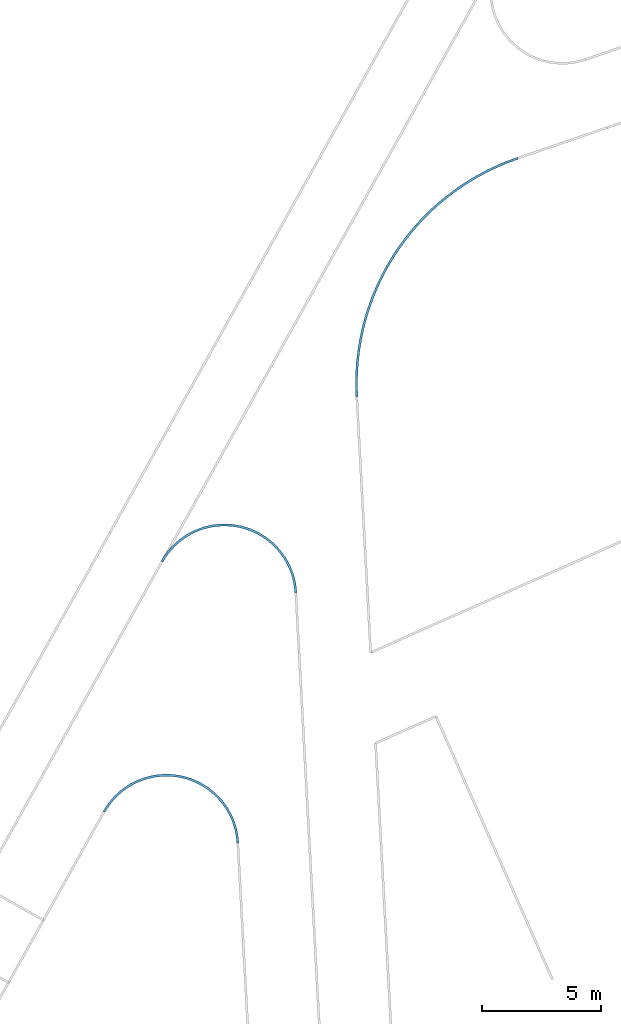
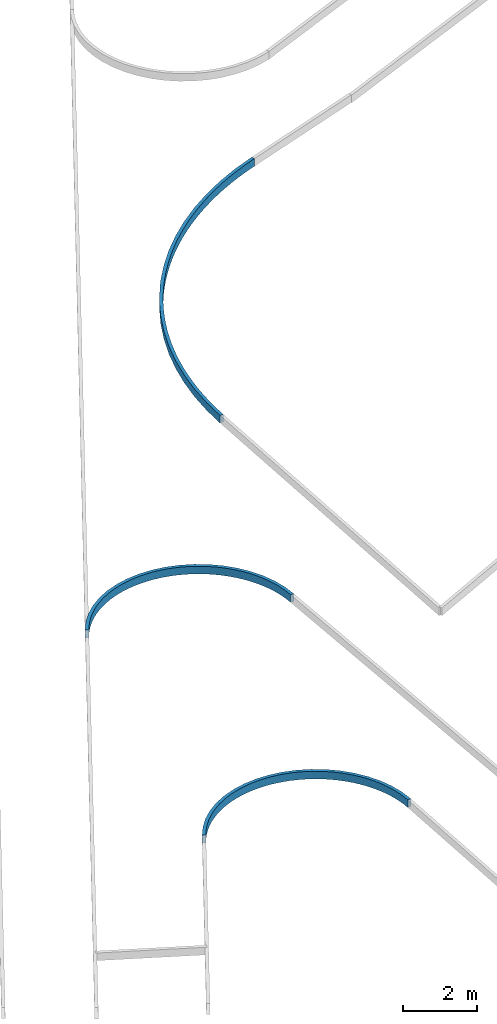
# One storey, part 91 of 112: 3 beams.
"""IFC2X3 building model written with IfcOpenShell, lengths in millimetres."""

from ifc_helpers import new_model, entity, si_unit, converted_unit, derived_unit, direction, frame, origin, place, context, subcontext, project, spatial, faceted_brep, material, type_object, element, save


model = new_model("IFC2X3")

# Units and contexts
model_context = context("Model", 3, precision=0.01, world=origin(), true_north=direction((6.123031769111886e-17, 1.0)))
body_context = subcontext(model_context, "Body", "Model", "MODEL_VIEW")
ifc_project = project(units=[si_unit("LENGTHUNIT", "METRE", prefix="MILLI"), si_unit("AREAUNIT", "SQUARE_METRE"), si_unit("VOLUMEUNIT", "CUBIC_METRE"), converted_unit("PLANEANGLEUNIT", "DEGREE", entity("IfcRatioMeasure", 0.017453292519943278), si_unit("PLANEANGLEUNIT", "RADIAN"), dimensions=[0, 0, 0, 0, 0, 0, 0]), si_unit("MASSUNIT", "GRAM", prefix="KILO"), derived_unit("MASSDENSITYUNIT", [(si_unit("MASSUNIT", "GRAM", prefix="KILO"), 1), (si_unit("LENGTHUNIT", "METRE"), -3)]), derived_unit("MOMENTOFINERTIAUNIT", [(si_unit("LENGTHUNIT", "METRE"), 4)]), si_unit("TIMEUNIT", "SECOND"), si_unit("FREQUENCYUNIT", "HERTZ"), si_unit("THERMODYNAMICTEMPERATUREUNIT", "DEGREE_CELSIUS"), derived_unit("THERMALTRANSMITTANCEUNIT", [(si_unit("MASSUNIT", "GRAM", prefix="KILO"), 1), (si_unit("THERMODYNAMICTEMPERATUREUNIT", "KELVIN"), -1), (si_unit("TIMEUNIT", "SECOND"), -3)]), derived_unit("THERMALCONDUCTANCEUNIT", [(si_unit("MASSUNIT", "GRAM", prefix="KILO"), 1), (si_unit("LENGTHUNIT", "METRE"), 1), (si_unit("THERMODYNAMICTEMPERATUREUNIT", "KELVIN"), -1), (si_unit("TIMEUNIT", "SECOND"), -3)]), derived_unit("VOLUMETRICFLOWRATEUNIT", [(si_unit("LENGTHUNIT", "METRE"), 3), (si_unit("TIMEUNIT", "SECOND"), -1)]), derived_unit("MASSFLOWRATEUNIT", [(si_unit("MASSUNIT", "GRAM", prefix="KILO"), 1), (si_unit("TIMEUNIT", "SECOND"), -1)]), derived_unit("ROTATIONALFREQUENCYUNIT", [(si_unit("TIMEUNIT", "SECOND"), -1)]), si_unit("ELECTRICCURRENTUNIT", "AMPERE"), si_unit("ELECTRICVOLTAGEUNIT", "VOLT"), si_unit("POWERUNIT", "WATT"), converted_unit("FORCEUNIT", "KIP", entity("IfcRatioMeasure", 2.088543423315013e-05), si_unit("FORCEUNIT", "NEWTON"), dimensions=[1, 1, -2, 0, 0, 0, 0]), si_unit("ILLUMINANCEUNIT", "LUX"), si_unit("LUMINOUSFLUXUNIT", "LUMEN"), si_unit("LUMINOUSINTENSITYUNIT", "CANDELA"), derived_unit("USERDEFINED", [(si_unit("MASSUNIT", "GRAM", prefix="KILO"), -1), (si_unit("LENGTHUNIT", "METRE"), -2), (si_unit("TIMEUNIT", "SECOND"), 3), (si_unit("LUMINOUSFLUXUNIT", "LUMEN"), 1)]), derived_unit("USERDEFINED", [(si_unit("MASSUNIT", "GRAM", prefix="KILO"), 1), (si_unit("LENGTHUNIT", "METRE"), 3), (si_unit("TIMEUNIT", "SECOND"), -3), (si_unit("ELECTRICCURRENTUNIT", "AMPERE"), -2)]), derived_unit("USERDEFINED", [(si_unit("LENGTHUNIT", "METRE"), 2), (si_unit("TIMEUNIT", "SECOND"), -2)]), derived_unit("SOUNDPOWERUNIT", [(si_unit("MASSUNIT", "GRAM", prefix="KILO"), 1), (si_unit("LENGTHUNIT", "METRE"), 2), (si_unit("TIMEUNIT", "SECOND"), -3)]), derived_unit("SOUNDPRESSUREUNIT", [(si_unit("MASSUNIT", "GRAM", prefix="KILO"), 1), (si_unit("LENGTHUNIT", "METRE"), -1), (si_unit("TIMEUNIT", "SECOND"), -2)]), derived_unit("LINEARVELOCITYUNIT", [(si_unit("LENGTHUNIT", "METRE"), 1), (si_unit("TIMEUNIT", "SECOND"), -1)]), si_unit("PRESSUREUNIT", "PASCAL"), derived_unit("USERDEFINED", [(si_unit("LENGTHUNIT", "METRE"), -2), (si_unit("MASSUNIT", "GRAM", prefix="KILO"), 1), (si_unit("TIMEUNIT", "SECOND"), -2)]), derived_unit("LINEARFORCEUNIT", [(si_unit("MASSUNIT", "GRAM", prefix="KILO"), 1), (si_unit("LENGTHUNIT", "METRE"), 1), (si_unit("TIMEUNIT", "SECOND"), -2), (si_unit("LENGTHUNIT", "METRE"), -1)]), derived_unit("PLANARFORCEUNIT", [(si_unit("MASSUNIT", "GRAM", prefix="KILO"), 1), (si_unit("LENGTHUNIT", "METRE"), 1), (si_unit("TIMEUNIT", "SECOND"), -2), (si_unit("LENGTHUNIT", "METRE"), -2)]), derived_unit("SPECIFICHEATCAPACITYUNIT", [(si_unit("LENGTHUNIT", "METRE"), 2), (si_unit("TIMEUNIT", "SECOND"), -2), (si_unit("THERMODYNAMICTEMPERATUREUNIT", "KELVIN"), -1)]), derived_unit("VAPORPERMEABILITYUNIT", [(si_unit("TIMEUNIT", "SECOND"), 1), (si_unit("LENGTHUNIT", "METRE"), -1)]), derived_unit("DYNAMICVISCOSITYUNIT", [(si_unit("MASSUNIT", "GRAM", prefix="KILO"), 1), (si_unit("LENGTHUNIT", "METRE"), -1), (si_unit("TIMEUNIT", "SECOND"), -1)]), derived_unit("THERMALEXPANSIONCOEFFICIENTUNIT", [(si_unit("THERMODYNAMICTEMPERATUREUNIT", "KELVIN"), -1)])], contexts=[model_context])

# Site, building, storey
site_placement = place(None, frame((0.0, 0.0, 0.0), z_axis=(0.0, 0.0, 1.0), x_axis=(0.8191520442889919, 0.5735764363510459, 0.0)))
site = spatial("IfcSite", under=ifc_project, at=site_placement, Name="Default", CompositionType="ELEMENT")
building_placement = place(site_placement, origin())
building = spatial("IfcBuilding", under=site, at=building_placement, CompositionType="ELEMENT")
storey_placement = place(building_placement, frame((0.0, 0.0, -3600.0)))
storey = spatial("IfcBuildingStorey", under=building, at=storey_placement, Name="0.UG -3.60", CompositionType="ELEMENT", Elevation=-3600.0000000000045)

# Beams
ifc_material = material(Name="Paveta_bordur")
beam_type_1 = type_object("IfcBeamType", Name="Beam-146", PredefinedType="NOTDEFINED")
beam_1_placement = place(storey_placement, frame((-16801.070532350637, 94848.97141011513, 1360.0)))
element("IfcBeam", 1, at=beam_1_placement, inside=storey, type_object=beam_type_1, material=ifc_material, Name="Beam-146 208203:Beam-146 208203", ObjectType="Beam-146 208203:Beam-146 208203", context=body_context, shape_type="Brep", body=[
    faceted_brep([(3833.5869192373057, 54.42806388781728, 250.0), (3833.5869192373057, 54.42806388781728, 0.0), (3918.4909599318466, 1.5952722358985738, 0.0), (3918.4909599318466, 1.5952722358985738, 250.0), (1.5952722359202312, 4359.031674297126, 0.0), (45.11404097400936, 4268.997698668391, 0.0), (45.11404097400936, 4268.997698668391, 250.0), (1.5952722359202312, 4359.031674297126, 250.0), (218.81797420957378, 4346.158156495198, 0.0), (365.5442628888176, 4506.852978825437, 0.0), (745.473706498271, 4606.670931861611, 0.0), (1135.0813279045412, 4656.829751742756, 0.0), (1527.9043101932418, 4656.4974032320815, 0.0), (1917.4264999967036, 4605.6793993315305, 0.0), (2297.1864975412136, 4505.218709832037, 0.0), (2660.8848384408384, 4356.781778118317, 0.0), (3002.4884893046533, 4162.830878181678, 0.0), (3316.330923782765, 3926.5832703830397, 0.0), (3597.2061189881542, 3651.9578334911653, 0.0), (3840.45491308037, 3343.5100582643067, 0.0), (4042.042291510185, 3006.3564809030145, 0.0), (4198.624319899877, 2646.089809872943, 0.0), (4307.603613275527, 2268.68615397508, 0.0), (4367.172421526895, 1880.4058905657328, 0.0), (4376.342616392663, 1487.6898183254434, 0.0), (4334.962082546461, 1097.0523171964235, 0.0), (4243.7172408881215, 714.9732877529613, 0.0), (4104.121662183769, 347.79066251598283, 0.0), (3928.755513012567, 218.95688030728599, 0.0), (4013.131368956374, 389.27278563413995, 0.0), (4086.3642165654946, 564.6687454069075, 0.0), (4148.15004344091, 744.416636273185, 0.0), (4198.232357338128, 927.770268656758, 0.0), (4236.403250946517, 1113.968484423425, 0.0), (4262.504264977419, 1302.238316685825, 0.0), (4276.42704597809, 1491.79819863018, 0.0), (4278.113796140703, 1681.8612080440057, 0.0), (4267.557513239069, 1871.6383340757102, 0.0), (4244.802019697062, 2060.341752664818, 0.0), (4209.941780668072, 2247.1880970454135, 0.0), (4163.12151188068, 2431.401709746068, 0.0), (4104.53557887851, 2612.217862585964, 0.0), (4034.4271901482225, 2788.8859313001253, 0.0), (3953.087387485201, 2960.6725116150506, 0.0), (3860.8538377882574, 3126.8644638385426, 0.0), (3758.109431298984, 3286.771873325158, 0.0), (3645.2806921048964, 3439.730914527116, 0.0), (3522.8360075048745, 3585.1066067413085, 0.0), (3391.2836835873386, 3722.2954501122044, 0.0), (3251.1698350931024, 3850.727930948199, 0.0), (3103.076118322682, 3969.870885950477, 0.0), (2947.6173164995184, 4079.2297155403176, 0.0), (2785.4387876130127, 4178.350437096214, 0.0), (2617.213785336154, 4266.821569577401, 0.0), (2443.640664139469, 4344.2758417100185, 0.0), (2265.43998020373, 4410.391716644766, 0.0), (2083.3515001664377, 4464.894726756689, 0.0), (1898.1311301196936, 4507.558613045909, 0.0), (1710.547777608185, 4538.206264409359, 0.0), (1521.38015965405, 4556.710452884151, 0.0), (1331.413570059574, 4562.994361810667, 0.0), (1141.4366194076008, 4557.031904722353, 0.0), (952.2379612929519, 4538.847833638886, 0.0), (764.6030183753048, 4508.5176363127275, 0.0), (579.3107218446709, 4466.167222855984, 0.0), (397.1302778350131, 4411.972403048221, 0.0), (4104.121662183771, 347.79066251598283, 250.0), (4376.342616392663, 1487.6898183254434, 250.0), (4367.172421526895, 1880.4058905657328, 250.0), (4243.7172408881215, 714.9732877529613, 250.0), (3840.45491308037, 3343.5100582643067, 250.0), (4042.042291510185, 3006.3564809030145, 250.0), (4307.603613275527, 2268.68615397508, 250.0), (4198.624319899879, 2646.089809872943, 250.0), (3597.2061189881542, 3651.9578334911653, 250.0), (4334.962082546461, 1097.0523171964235, 250.0), (2660.8848384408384, 4356.781778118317, 250.0), (2297.186497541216, 4505.218709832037, 250.0), (3316.330923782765, 3926.5832703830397, 250.0), (3002.488489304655, 4162.830878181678, 250.0), (1917.4264999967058, 4605.6793993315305, 250.0), (365.5442628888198, 4506.852978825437, 250.0), (745.4737064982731, 4606.670931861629, 250.0), (1527.9043101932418, 4656.4974032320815, 250.0), (1135.0813279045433, 4656.829751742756, 250.0), (218.81797420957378, 4346.158156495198, 250.0), (397.1302778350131, 4411.972403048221, 250.0), (579.3107218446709, 4466.167222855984, 250.0), (764.6030183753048, 4508.5176363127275, 250.0), (952.2379612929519, 4538.847833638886, 250.0), (1141.4366194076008, 4557.031904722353, 250.0), (1331.413570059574, 4562.994361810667, 250.0), (1521.38015965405, 4556.710452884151, 250.0), (1710.547777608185, 4538.206264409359, 250.0), (1898.1311301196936, 4507.558613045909, 250.0), (2083.3515001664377, 4464.894726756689, 250.0), (2265.43998020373, 4410.391716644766, 250.0), (2443.640664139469, 4344.2758417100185, 250.0), (2617.213785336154, 4266.821569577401, 250.0), (2785.4387876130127, 4178.350437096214, 250.0), (2947.6173164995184, 4079.2297155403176, 250.0), (3103.076118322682, 3969.870885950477, 250.0), (3251.1698350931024, 3850.727930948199, 250.0), (3391.2836835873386, 3722.2954501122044, 250.0), (3522.8360075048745, 3585.1066067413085, 250.0), (3645.2806921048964, 3439.730914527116, 250.0), (3758.109431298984, 3286.771873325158, 250.0), (3860.8538377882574, 3126.8644638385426, 250.0), (3953.087387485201, 2960.6725116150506, 250.0), (4034.4271901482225, 2788.8859313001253, 250.0), (4104.53557887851, 2612.217862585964, 250.0), (4163.12151188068, 2431.401709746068, 250.0), (4209.941780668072, 2247.1880970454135, 250.0), (4244.802019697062, 2060.341752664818, 250.0), (4267.557513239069, 1871.6383340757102, 250.0), (4278.113796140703, 1681.8612080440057, 250.0), (4276.42704597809, 1491.79819863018, 250.0), (4262.504264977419, 1302.238316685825, 250.0), (4236.403250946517, 1113.968484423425, 250.0), (4198.232357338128, 927.770268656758, 250.0), (4148.15004344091, 744.416636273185, 250.0), (4086.3642165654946, 564.6687454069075, 250.0), (4013.131368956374, 389.27278563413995, 250.0), (3928.755513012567, 218.95688030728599, 250.0)], [[[0, 1, 2, 3]], [[4, 5, 6, 7]], [[8, 5, 4, 9, 10, 11, 12, 13, 14, 15, 16, 17, 18, 19, 20, 21, 22, 23, 24, 25, 26, 27, 2, 1, 28, 29, 30, 31, 32, 33, 34, 35, 36, 37, 38, 39, 40, 41, 42, 43, 44, 45, 46, 47, 48, 49, 50, 51, 52, 53, 54, 55, 56, 57, 58, 59, 60, 61, 62, 63, 64, 65]], [[66, 3, 2, 27]], [[67, 24, 23, 68]], [[69, 66, 27, 26]], [[20, 19, 70, 71]], [[72, 22, 21, 73]], [[73, 21, 20, 71]], [[23, 22, 72, 68]], [[70, 19, 18, 74]], [[75, 25, 24, 67]], [[75, 69, 26, 25]], [[76, 15, 14, 77]], [[78, 17, 16, 79]], [[15, 76, 79, 16]], [[77, 14, 13, 80]], [[10, 9, 81, 82]], [[83, 12, 11, 84]], [[84, 11, 10, 82]], [[13, 12, 83, 80]], [[81, 9, 4, 7]], [[74, 18, 17, 78]], [[7, 6, 85, 86, 87, 88, 89, 90, 91, 92, 93, 94, 95, 96, 97, 98, 99, 100, 101, 102, 103, 104, 105, 106, 107, 108, 109, 110, 111, 112, 113, 114, 115, 116, 117, 118, 119, 120, 121, 122, 123, 0, 3, 66, 69, 75, 67, 68, 72, 73, 71, 70, 74, 78, 79, 76, 77, 80, 83, 84, 82, 81]], [[1, 0, 123, 28]], [[29, 28, 123, 122]], [[121, 30, 29, 122]], [[120, 31, 30, 121]], [[35, 34, 117, 116]], [[35, 116, 115, 36]], [[32, 31, 120, 119]], [[37, 36, 115, 114]], [[43, 42, 109, 108]], [[45, 44, 107, 106]], [[108, 107, 44, 43]], [[46, 45, 106, 105]], [[39, 38, 113, 112]], [[111, 110, 41, 40]], [[39, 112, 111, 40]], [[42, 41, 110, 109]], [[38, 37, 114, 113]], [[47, 46, 105, 104]], [[33, 32, 119, 118]], [[33, 118, 117, 34]], [[52, 99, 98, 53]], [[54, 97, 96, 55]], [[54, 53, 98, 97]], [[55, 96, 95, 56]], [[49, 48, 103, 102]], [[51, 50, 101, 100]], [[102, 101, 50, 49]], [[51, 100, 99, 52]], [[57, 56, 95, 94]], [[63, 62, 89, 88]], [[65, 64, 87, 86]], [[88, 87, 64, 63]], [[8, 65, 86, 85]], [[59, 58, 93, 92]], [[91, 90, 61, 60]], [[59, 92, 91, 60]], [[62, 61, 90, 89]], [[58, 57, 94, 93]], [[5, 8, 85, 6]], [[103, 48, 47, 104]]]),
])
beam_type_2 = type_object("IfcBeamType", Name="Beam-142", PredefinedType="NOTDEFINED")
beam_2_placement = place(storey_placement, frame((-8782.951140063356, 102056.00445510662, 860.0)))
element("IfcBeam", 2, at=beam_2_placement, inside=storey, type_object=beam_type_2, material=ifc_material, Name="Beam-142 237364:Beam-142 237364", ObjectType="Beam-142 237364:Beam-142 237364", context=body_context, shape_type="Brep", body=[
    faceted_brep([(3833.5508799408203, 54.428063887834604, 250.0), (3833.5508799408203, 54.428063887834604, 0.0), (3918.4549206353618, 1.5952722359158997, 0.0), (3918.4549206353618, 1.5952722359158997, 250.0), (1.5952722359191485, 4359.049093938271, 0.0), (45.112859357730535, 4269.014547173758, 0.0), (45.112859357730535, 4269.014547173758, 250.0), (1.5952722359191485, 4359.049093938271, 250.0), (218.81690847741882, 4346.1723610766, 0.0), (365.544303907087, 4506.864989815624, 0.0), (745.4730275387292, 4606.6778230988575, 0.0), (1135.0792440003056, 4656.831913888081, 0.0), (1527.9002254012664, 4656.495313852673, 0.0), (1917.4199178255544, 4605.67360646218, 0.0), (2297.177028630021, 4505.209814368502, 0.0), (2660.8722053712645, 4356.7704154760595, 0.0), (3002.472528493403, 4162.817699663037, 0.0), (3316.3115844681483, 3926.5689246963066, 0.0), (3597.1834593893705, 3651.9429488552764, 0.0), (3840.429093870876, 3343.495225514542, 0.0), (4042.0135668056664, 3006.3422379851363, 0.0), (4198.593026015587, 2646.076628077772, 0.0), (4307.570155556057, 2268.674426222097, 0.0), (4367.137259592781, 1880.3959219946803, 0.0), (4376.306248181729, 1487.6818194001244, 0.0), (4334.925027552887, 1097.0463994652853, 0.0), (4243.680023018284, 714.9694623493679, 0.0), (4104.084792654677, 347.7888414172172, 0.0), (3928.7190163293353, 218.95602729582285, 0.0), (4013.0945266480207, 389.2710242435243, 0.0), (4086.3271453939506, 564.666031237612, 0.0), (4148.112864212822, 744.4129362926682, 0.0), (4198.195193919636, 927.7655615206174, 0.0), (4236.366229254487, 1113.9627607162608, 0.0), (4262.467511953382, 1302.231579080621, 0.0), (4276.390688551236, 1491.7904619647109, 0.0), (4278.077960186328, 1681.8524993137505, 0.0), (4267.522322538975, 1871.6286923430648, 0.0), (4244.767594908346, 2060.331228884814, 0.0), (4209.908238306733, 2247.1767538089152, 0.0), (4163.088963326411, 2431.3896209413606, 0.0), (4104.504129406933, 2612.205112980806, 0.0), (4034.3969379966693, 2788.872616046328, 0.0), (3953.058422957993, 2960.658735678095, 0.0), (3860.8262424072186, 3126.850341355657, 0.0), (3758.083277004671, 3286.7575268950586, 0.0), (3645.256040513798, 3439.7164744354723, 0.0), (3522.812909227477, 3585.09221012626, 0.0), (3391.262177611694, 3722.2812400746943, 0.0), (3251.1499482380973, 3850.714055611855, 0.0), (3103.057864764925, 3969.8574974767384, 0.0), (2947.6006973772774, 4079.2169691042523, 0.0), (2785.423790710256, 4178.338489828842, 0.0), (2617.2003848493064, 4266.810579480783, 0.0), (2443.628820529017, 4344.265966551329, 0.0), (2265.4296401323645, 4410.383112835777, 0.0), (2083.3425965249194, 4464.887548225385, 0.0), (1898.123582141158, 4507.5530101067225, 0.0), (1710.5414910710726, 4538.202382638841, 0.0), (1521.3750271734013, 4556.708432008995, 0.0), (1331.4094714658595, 4562.994334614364, 0.0), (1141.4334222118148, 4557.033995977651, 0.0), (952.2355212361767, 4538.852159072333, 0.0), (764.6011800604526, 4508.524301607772, 0.0), (579.3093194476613, 4466.176322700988, 0.0), (397.1291358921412, 4411.984020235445, 0.0), (4104.084792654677, 347.7888414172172, 250.0), (4376.306248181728, 1487.6818194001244, 250.0), (4367.13725959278, 1880.3959219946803, 250.0), (4243.6800230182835, 714.9694623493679, 250.0), (3840.4290938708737, 3343.495225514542, 250.0), (4042.0135668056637, 3006.3422379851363, 250.0), (4307.570155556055, 2268.674426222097, 250.0), (4198.593026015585, 2646.076628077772, 250.0), (3597.1834593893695, 3651.9429488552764, 250.0), (4334.925027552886, 1097.0463994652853, 250.0), (2660.8722053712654, 4356.7704154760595, 250.0), (2297.177028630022, 4505.209814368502, 250.0), (3316.311584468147, 3926.5689246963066, 250.0), (3002.472528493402, 4162.81769966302, 250.0), (1917.4199178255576, 4605.67360646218, 250.0), (365.54430390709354, 4506.864989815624, 250.0), (745.4730275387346, 4606.6778230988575, 250.0), (1527.9002254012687, 4656.495313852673, 250.0), (1135.07924400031, 4656.831913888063, 250.0), (218.81690847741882, 4346.1723610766, 250.0), (397.1291358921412, 4411.984020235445, 250.0), (579.3093194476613, 4466.176322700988, 250.0), (764.6011800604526, 4508.524301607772, 250.0), (952.2355212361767, 4538.852159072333, 250.0), (1141.4334222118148, 4557.033995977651, 250.0), (1331.4094714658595, 4562.994334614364, 250.0), (1521.3750271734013, 4556.708432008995, 250.0), (1710.5414910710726, 4538.202382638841, 250.0), (1898.123582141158, 4507.5530101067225, 250.0), (2083.3425965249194, 4464.887548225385, 250.0), (2265.4296401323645, 4410.383112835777, 250.0), (2443.628820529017, 4344.265966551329, 250.0), (2617.2003848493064, 4266.810579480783, 250.0), (2785.423790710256, 4178.338489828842, 250.0), (2947.6006973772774, 4079.2169691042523, 250.0), (3103.057864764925, 3969.8574974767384, 250.0), (3251.1499482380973, 3850.714055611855, 250.0), (3391.262177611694, 3722.2812400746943, 250.0), (3522.812909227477, 3585.09221012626, 250.0), (3645.256040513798, 3439.7164744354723, 250.0), (3758.083277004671, 3286.7575268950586, 250.0), (3860.8262424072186, 3126.850341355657, 250.0), (3953.058422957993, 2960.658735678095, 250.0), (4034.3969379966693, 2788.872616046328, 250.0), (4104.504129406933, 2612.205112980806, 250.0), (4163.088963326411, 2431.3896209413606, 250.0), (4209.908238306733, 2247.1767538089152, 250.0), (4244.767594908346, 2060.331228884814, 250.0), (4267.522322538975, 1871.6286923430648, 250.0), (4278.077960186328, 1681.8524993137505, 250.0), (4276.390688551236, 1491.7904619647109, 250.0), (4262.467511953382, 1302.231579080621, 250.0), (4236.366229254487, 1113.9627607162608, 250.0), (4198.195193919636, 927.7655615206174, 250.0), (4148.112864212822, 744.4129362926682, 250.0), (4086.3271453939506, 564.666031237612, 250.0), (4013.0945266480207, 389.2710242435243, 250.0), (3928.7190163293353, 218.95602729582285, 250.0)], [[[0, 1, 2, 3]], [[4, 5, 6, 7]], [[8, 5, 4, 9, 10, 11, 12, 13, 14, 15, 16, 17, 18, 19, 20, 21, 22, 23, 24, 25, 26, 27, 2, 1, 28, 29, 30, 31, 32, 33, 34, 35, 36, 37, 38, 39, 40, 41, 42, 43, 44, 45, 46, 47, 48, 49, 50, 51, 52, 53, 54, 55, 56, 57, 58, 59, 60, 61, 62, 63, 64, 65]], [[66, 3, 2, 27]], [[67, 24, 23, 68]], [[69, 66, 27, 26]], [[20, 19, 70, 71]], [[72, 22, 21, 73]], [[73, 21, 20, 71]], [[23, 22, 72, 68]], [[70, 19, 18, 74]], [[75, 25, 24, 67]], [[75, 69, 26, 25]], [[76, 15, 14, 77]], [[78, 17, 16, 79]], [[15, 76, 79, 16]], [[77, 14, 13, 80]], [[10, 9, 81, 82]], [[83, 12, 11, 84]], [[84, 11, 10, 82]], [[13, 12, 83, 80]], [[81, 9, 4, 7]], [[74, 18, 17, 78]], [[7, 6, 85, 86, 87, 88, 89, 90, 91, 92, 93, 94, 95, 96, 97, 98, 99, 100, 101, 102, 103, 104, 105, 106, 107, 108, 109, 110, 111, 112, 113, 114, 115, 116, 117, 118, 119, 120, 121, 122, 123, 0, 3, 66, 69, 75, 67, 68, 72, 73, 71, 70, 74, 78, 79, 76, 77, 80, 83, 84, 82, 81]], [[1, 0, 123, 28]], [[29, 28, 123, 122]], [[121, 30, 29, 122]], [[120, 31, 30, 121]], [[35, 34, 117, 116]], [[35, 116, 115, 36]], [[32, 31, 120, 119]], [[37, 36, 115, 114]], [[43, 42, 109, 108]], [[45, 44, 107, 106]], [[108, 107, 44, 43]], [[46, 45, 106, 105]], [[39, 38, 113, 112]], [[111, 110, 41, 40]], [[39, 112, 111, 40]], [[42, 41, 110, 109]], [[38, 37, 114, 113]], [[47, 46, 105, 104]], [[33, 32, 119, 118]], [[33, 118, 117, 34]], [[52, 99, 98, 53]], [[54, 97, 96, 55]], [[54, 53, 98, 97]], [[55, 96, 95, 56]], [[49, 48, 103, 102]], [[51, 50, 101, 100]], [[102, 101, 50, 49]], [[51, 100, 99, 52]], [[57, 56, 95, 94]], [[63, 62, 89, 88]], [[65, 64, 87, 86]], [[88, 87, 64, 63]], [[8, 65, 86, 85]], [[59, 58, 93, 92]], [[91, 90, 61, 60]], [[59, 92, 91, 60]], [[62, 61, 90, 89]], [[58, 57, 94, 93]], [[5, 8, 85, 6]], [[103, 48, 47, 104]]]),
])
beam_type_3 = type_object("IfcBeamType", Name="Beam-149", PredefinedType="NOTDEFINED")
beam_3_placement = place(storey_placement, frame((1860.0763937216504, 107323.33028219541, 860.0)))
element("IfcBeam", 3, at=beam_3_placement, inside=storey, type_object=beam_type_3, material=ifc_material, Name="Beam-149 237377:Beam-149 237377", ObjectType="Beam-149 237377:Beam-149 237377", context=body_context, shape_type="Brep", body=[
    faceted_brep([(11295.323581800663, 4304.025603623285, 250.0), (11295.323581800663, 4304.025603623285, 0.0), (11323.071041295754, 4400.098901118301, 0.0), (11323.071041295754, 4400.098901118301, 250.0), (1.5952722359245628, 54.428063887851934, 0.0), (86.49931293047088, 1.5952722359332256, 0.0), (86.49931293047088, 1.5952722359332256, 250.0), (1.5952722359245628, 54.428063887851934, 250.0), (3505.601447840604, 3446.063926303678, 0.0), (4126.674511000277, 3776.565275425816, 0.0), (4769.3478907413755, 4062.8061154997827, 0.0), (5097.8042210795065, 4188.881825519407, 0.0), (5766.944038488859, 4406.171485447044, 0.0), (6449.6460293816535, 4576.115250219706, 0.0), (7142.56461170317, 4697.8803101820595, 0.0), (7842.304136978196, 4770.869955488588, 0.0), (8545.435530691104, 4794.726500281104, 0.0), (9248.513096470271, 4769.333035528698, 0.0), (9948.091401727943, 4694.814001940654, 0.0), (10640.742162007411, 4571.534580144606, 0.0), (10959.039480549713, 4394.80361429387, 0.0), (10619.784044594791, 4473.755454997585, 0.0), (10277.973031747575, 4540.784370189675, 0.0), (9934.025331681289, 4595.808215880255, 0.0), (9588.362452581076, 4638.759560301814, 0.0), (9241.40800458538, 4669.585766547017, 0.0), (8893.587180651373, 4688.249057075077, 0.0), (8545.326235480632, 4694.726560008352, 0.0), (8197.051963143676, 4689.010337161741, 0.0), (7849.191174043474, 4671.107393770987, 0.0), (7502.170171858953, 4641.0396699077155, 0.0), (7156.414231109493, 4598.8440135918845, 0.0), (6812.347075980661, 4544.572135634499, 0.0), (6470.390361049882, 4478.290546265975, 0.0), (6130.963154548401, 4400.080473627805, 0.0), (5794.481424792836, 4310.037764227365, 0.0), (5461.3575304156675, 4208.272765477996, 0.0), (5131.999715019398, 4094.910190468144, 0.0), (4806.8116068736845, 3970.0889651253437, 0.0), (4486.191724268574, 3833.962057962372, 0.0), (4170.532987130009, 3686.696292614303, 0.0), (3860.222235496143, 3528.4721433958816, 0.0), (3555.6397554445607, 3359.4835141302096, 0.0), (3257.158813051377, 3179.9375005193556, 0.0), (2965.1451969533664, 2990.054136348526, 0.0), (2679.9567700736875, 2790.0661238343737, 0.0), (2401.943031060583, 2580.218548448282, 0.0), (2131.4446859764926, 2360.768578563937, 0.0), (1868.7932307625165, 2131.985150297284, 0.0), (1614.3105449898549, 1894.1486379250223, 0.0), (1368.3084973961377, 1647.5505102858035, 0.0), (1131.0885636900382, 1392.4929735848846, 0.0), (902.941457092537, 1129.2886010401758, 0.0), (684.1467720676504, 858.2599498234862, 0.0), (474.972641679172, 579.7391657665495, 0.0), (275.6754089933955, 294.06757631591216, 0.0), (393.97285554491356, 638.3824488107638, 0.0), (826.2428650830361, 1193.4549939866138, 0.0), (1296.286961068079, 1716.9255656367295, 0.0), (1801.8016917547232, 2206.2288954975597, 0.0), (2340.30978150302, 2658.9671519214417, 0.0), (2909.1722706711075, 3072.921690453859, 0.0), (9948.091401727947, 4694.814001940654, 250.0), (9248.513096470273, 4769.333035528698, 250.0), (10640.742162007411, 4571.534580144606, 250.0), (8545.435530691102, 4794.726500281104, 250.0), (5766.944038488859, 4406.171485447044, 250.0), (6449.6460293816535, 4576.115250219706, 250.0), (7842.304136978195, 4770.869955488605, 250.0), (7142.564611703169, 4697.8803101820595, 250.0), (5097.8042210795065, 4188.881825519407, 250.0), (4769.347890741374, 4062.8061154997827, 250.0), (3505.6014478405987, 3446.063926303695, 250.0), (2909.172270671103, 3072.921690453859, 250.0), (4126.674511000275, 3776.565275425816, 250.0), (2340.3097815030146, 2658.9671519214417, 250.0), (393.97285554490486, 638.3824488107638, 250.0), (826.2428650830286, 1193.4549939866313, 250.0), (1801.8016917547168, 2206.228895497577, 250.0), (1296.2869610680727, 1716.9255656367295, 250.0), (275.6754089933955, 294.06757631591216, 250.0), (474.972641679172, 579.7391657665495, 250.0), (684.1467720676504, 858.2599498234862, 250.0), (902.941457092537, 1129.2886010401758, 250.0), (1131.0885636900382, 1392.4929735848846, 250.0), (1368.3084973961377, 1647.5505102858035, 250.0), (1614.3105449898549, 1894.1486379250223, 250.0), (1868.7932307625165, 2131.985150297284, 250.0), (2131.4446859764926, 2360.768578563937, 250.0), (2401.943031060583, 2580.218548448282, 250.0), (2679.9567700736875, 2790.0661238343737, 250.0), (2965.1451969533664, 2990.054136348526, 250.0), (3257.158813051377, 3179.9375005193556, 250.0), (3555.6397554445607, 3359.4835141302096, 250.0), (3860.222235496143, 3528.4721433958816, 250.0), (4170.532987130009, 3686.696292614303, 250.0), (4486.191724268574, 3833.962057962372, 250.0), (4806.8116068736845, 3970.0889651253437, 250.0), (5131.999715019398, 4094.910190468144, 250.0), (5461.3575304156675, 4208.272765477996, 250.0), (5794.481424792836, 4310.037764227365, 250.0), (6130.963154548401, 4400.080473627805, 250.0), (6470.390361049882, 4478.290546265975, 250.0), (6812.347075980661, 4544.572135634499, 250.0), (7156.414231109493, 4598.8440135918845, 250.0), (7502.170171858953, 4641.0396699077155, 250.0), (7849.191174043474, 4671.107393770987, 250.0), (8197.051963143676, 4689.010337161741, 250.0), (8545.326235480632, 4694.726560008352, 250.0), (8893.587180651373, 4688.249057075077, 250.0), (9241.40800458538, 4669.585766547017, 250.0), (9588.362452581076, 4638.759560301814, 250.0), (9934.025331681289, 4595.808215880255, 250.0), (10277.973031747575, 4540.784370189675, 250.0), (10619.784044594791, 4473.755454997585, 250.0), (10959.039480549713, 4394.80361429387, 250.0)], [[[0, 1, 2, 3]], [[4, 5, 6, 7]], [[8, 9, 10, 11, 12, 13, 14, 15, 16, 17, 18, 19, 2, 1, 20, 21, 22, 23, 24, 25, 26, 27, 28, 29, 30, 31, 32, 33, 34, 35, 36, 37, 38, 39, 40, 41, 42, 43, 44, 45, 46, 47, 48, 49, 50, 51, 52, 53, 54, 55, 5, 4, 56, 57, 58, 59, 60, 61]], [[62, 18, 17, 63]], [[19, 18, 62, 64]], [[63, 17, 16, 65]], [[2, 19, 64, 3]], [[13, 12, 66, 67]], [[68, 15, 14, 69]], [[69, 14, 13, 67]], [[16, 15, 68, 65]], [[66, 12, 11, 70]], [[11, 10, 71, 70]], [[72, 8, 61, 73]], [[71, 10, 9, 74]], [[8, 72, 74, 9]], [[73, 61, 60, 75]], [[57, 56, 76, 77]], [[78, 59, 58, 79]], [[79, 58, 57, 77]], [[60, 59, 78, 75]], [[76, 56, 4, 7]], [[73, 75, 78, 79, 77, 76, 7, 6, 80, 81, 82, 83, 84, 85, 86, 87, 88, 89, 90, 91, 92, 93, 94, 95, 96, 97, 98, 99, 100, 101, 102, 103, 104, 105, 106, 107, 108, 109, 110, 111, 112, 113, 114, 115, 0, 3, 64, 62, 63, 65, 68, 69, 67, 66, 70, 71, 74, 72]], [[25, 24, 111, 110]], [[25, 110, 109, 26]], [[21, 20, 115, 114]], [[24, 23, 112, 111]], [[22, 113, 112, 23]], [[115, 20, 1, 0]], [[26, 109, 108, 27]], [[21, 114, 113, 22]], [[33, 32, 103, 102]], [[35, 34, 101, 100]], [[102, 101, 34, 33]], [[36, 35, 100, 99]], [[29, 28, 107, 106]], [[105, 104, 31, 30]], [[29, 106, 105, 30]], [[32, 31, 104, 103]], [[27, 108, 107, 28]], [[37, 36, 99, 98]], [[98, 97, 38, 37]], [[42, 93, 92, 43]], [[43, 92, 91, 44]], [[44, 91, 90, 45]], [[39, 38, 97, 96]], [[41, 40, 95, 94]], [[96, 95, 40, 39]], [[41, 94, 93, 42]], [[46, 45, 90, 89]], [[52, 51, 84, 83]], [[54, 53, 82, 81]], [[83, 82, 53, 52]], [[55, 54, 81, 80]], [[48, 47, 88, 87]], [[86, 85, 50, 49]], [[48, 87, 86, 49]], [[51, 50, 85, 84]], [[47, 46, 89, 88]], [[5, 55, 80, 6]]]),
])

save(model, "model.ifc")
